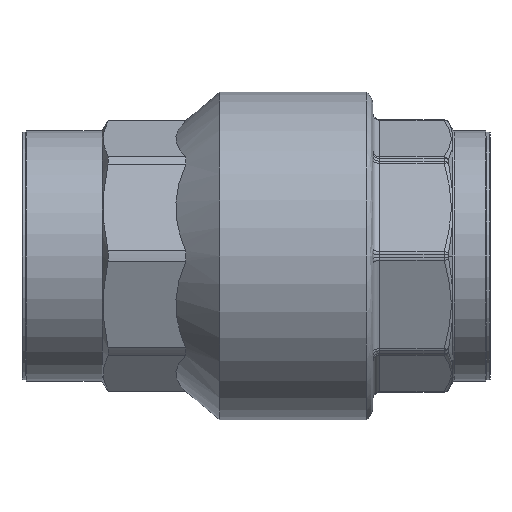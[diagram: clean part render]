
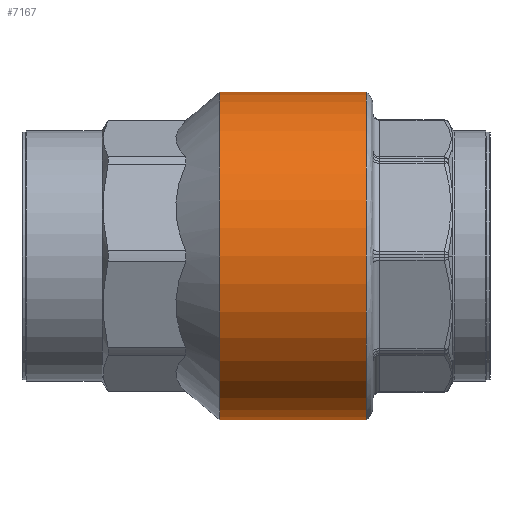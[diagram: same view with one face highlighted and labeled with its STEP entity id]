
A CAD part, front view. The second image highlights one B-rep face of the part: STEP entity #7167.
In plain terms, the highlighted cylindrical face has radius 24.5 mm (diameter 49 mm), a partial arc.
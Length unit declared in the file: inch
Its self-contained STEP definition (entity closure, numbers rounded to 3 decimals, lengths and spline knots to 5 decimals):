
#81 = EDGE_CURVE ( 'NONE', #6593, #1847, #5613, .T. ) ;
#1136 = VECTOR ( 'NONE', #6461, 39.37008 ) ;
#1170 = VERTEX_POINT ( 'NONE', #1462 ) ;
#1200 = DIRECTION ( 'NONE',  ( 1., 0., 0. ) ) ;
#1417 = FACE_OUTER_BOUND ( 'NONE', #4265, .T. ) ;
#1462 = CARTESIAN_POINT ( 'NONE',  ( -0.86358, 0., -0.96457 ) ) ;
#1533 = CARTESIAN_POINT ( 'NONE',  ( -0.86358, 0., 0. ) ) ;
#1842 = CARTESIAN_POINT ( 'NONE',  ( -0.86358, 0., 0.96457 ) ) ;
#1847 = VERTEX_POINT ( 'NONE', #1947 ) ;
#1947 = CARTESIAN_POINT ( 'NONE',  ( 0., 0., 0.96457 ) ) ;
#2057 = CARTESIAN_POINT ( 'NONE',  ( -0.48066, 0., -0.96457 ) ) ;
#2372 = EDGE_CURVE ( 'NONE', #2591, #1847, #10649, .T. ) ;
#2402 = DIRECTION ( 'NONE',  ( 0., 0., -1. ) ) ;
#2472 = CARTESIAN_POINT ( 'NONE',  ( -0.48066, 0., 0. ) ) ;
#2591 = VERTEX_POINT ( 'NONE', #4547 ) ;
#3162 = CIRCLE ( 'NONE', #10262, 0.96457 ) ;
#3181 = ORIENTED_EDGE ( 'NONE', *, *, #8281, .T. ) ;
#3678 = LINE ( 'NONE', #2057, #9966 ) ;
#4198 = DIRECTION ( 'NONE',  ( -1., 0., 0. ) ) ;
#4265 = EDGE_LOOP ( 'NONE', ( #6917, #3181, #6182, #5460 ) ) ;
#4547 = CARTESIAN_POINT ( 'NONE',  ( 0., 0., -0.96457 ) ) ;
#5460 = ORIENTED_EDGE ( 'NONE', *, *, #2372, .T. ) ;
#5613 = LINE ( 'NONE', #5667, #1136 ) ;
#5667 = CARTESIAN_POINT ( 'NONE',  ( -0.48066, 0., 0.96457 ) ) ;
#5726 = AXIS2_PLACEMENT_3D ( 'NONE', #9083, #4198, #9920 ) ;
#6182 = ORIENTED_EDGE ( 'NONE', *, *, #8061, .T. ) ;
#6461 = DIRECTION ( 'NONE',  ( 1., 0., 0. ) ) ;
#6583 = DIRECTION ( 'NONE',  ( 0., 0., -1. ) ) ;
#6593 = VERTEX_POINT ( 'NONE', #1842 ) ;
#6860 = AXIS2_PLACEMENT_3D ( 'NONE', #2472, #10708, #6583 ) ;
#6917 = ORIENTED_EDGE ( 'NONE', *, *, #81, .F. ) ;
#7167 = ADVANCED_FACE ( 'NONE', ( #1417 ), #7762, .T. ) ;
#7332 = DIRECTION ( 'NONE',  ( 1., 0., 0. ) ) ;
#7762 = CYLINDRICAL_SURFACE ( 'NONE', #6860, 0.96457 ) ;
#8061 = EDGE_CURVE ( 'NONE', #1170, #2591, #3678, .T. ) ;
#8281 = EDGE_CURVE ( 'NONE', #6593, #1170, #3162, .T. ) ;
#9083 = CARTESIAN_POINT ( 'NONE',  ( 0., 0., 0. ) ) ;
#9920 = DIRECTION ( 'NONE',  ( 0., 0., -1. ) ) ;
#9966 = VECTOR ( 'NONE', #1200, 39.37008 ) ;
#10262 = AXIS2_PLACEMENT_3D ( 'NONE', #1533, #7332, #2402 ) ;
#10649 = CIRCLE ( 'NONE', #5726, 0.96457 ) ;
#10708 = DIRECTION ( 'NONE',  ( 1., 0., 0. ) ) ;
